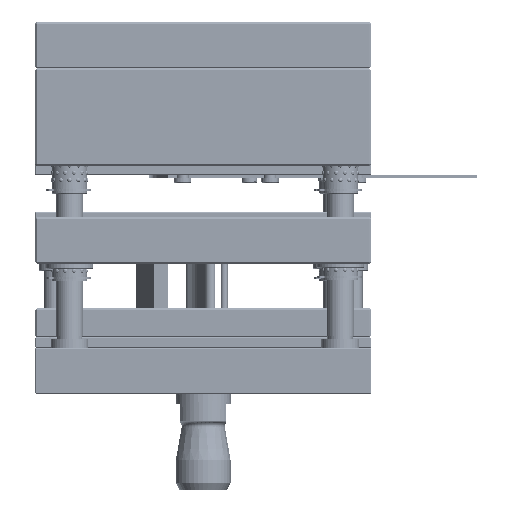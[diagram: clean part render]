
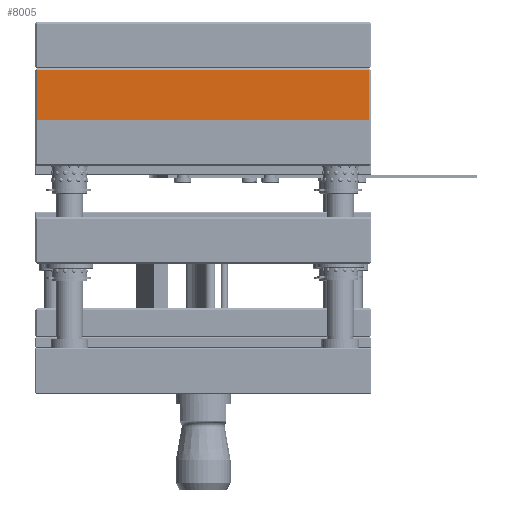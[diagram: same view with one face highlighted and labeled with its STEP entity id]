
A CAD part, left-side view. The second image highlights one B-rep face of the part: STEP entity #8005.
In plain terms, the highlighted planar face has unit normal (-1, 0, 0).
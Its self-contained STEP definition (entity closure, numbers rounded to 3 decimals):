
#7714=CARTESIAN_POINT('',(0.15,1.15,1.0));
#7715=VERTEX_POINT('',#7714);
#7772=CARTESIAN_POINT('',(0.15,194.85,1.0));
#7773=VERTEX_POINT('',#7772);
#7802=CARTESIAN_POINT('',(0.15,194.85,30.0));
#7803=VERTEX_POINT('',#7802);
#7819=CARTESIAN_POINT('',(0.15,194.85,1.0));
#7820=DIRECTION('',(0.0,0.0,1.0));
#7821=VECTOR('',#7820,29.0);
#7822=LINE('',#7819,#7821);
#7823=EDGE_CURVE('',#7773,#7803,#7822,.T.);
#7853=CARTESIAN_POINT('',(0.15,1.15,1.0));
#7854=DIRECTION('',(0.0,1.0,0.0));
#7855=VECTOR('',#7854,193.7);
#7856=LINE('',#7853,#7855);
#7857=EDGE_CURVE('',#7715,#7773,#7856,.T.);
#7934=CARTESIAN_POINT('',(0.15,1.15,30.0));
#7935=VERTEX_POINT('',#7934);
#7942=CARTESIAN_POINT('',(0.15,1.15,30.0));
#7943=DIRECTION('',(0.0,0.0,-1.0));
#7944=VECTOR('',#7943,29.0);
#7945=LINE('',#7942,#7944);
#7946=EDGE_CURVE('',#7935,#7715,#7945,.T.);
#7989=CARTESIAN_POINT('',(0.15,0.15,0.0));
#7990=DIRECTION('',(-1.0,0.0,0.0));
#7991=DIRECTION('',(0.0,0.0,1.0));
#7992=AXIS2_PLACEMENT_3D('',#7989,#7990,#7991);
#7993=PLANE('',#7992);
#7994=ORIENTED_EDGE('',*,*,#7823,.F.);
#7995=ORIENTED_EDGE('',*,*,#7857,.F.);
#7996=ORIENTED_EDGE('',*,*,#7946,.F.);
#7997=CARTESIAN_POINT('',(0.15,1.15,30.0));
#7998=DIRECTION('',(0.0,1.0,0.0));
#7999=VECTOR('',#7998,193.7);
#8000=LINE('',#7997,#7999);
#8001=EDGE_CURVE('',#7935,#7803,#8000,.T.);
#8002=ORIENTED_EDGE('',*,*,#8001,.T.);
#8003=EDGE_LOOP('',(#7994,#7995,#7996,#8002));
#8004=FACE_OUTER_BOUND('',#8003,.T.);
#8005=ADVANCED_FACE('',(#8004),#7993,.T.);
